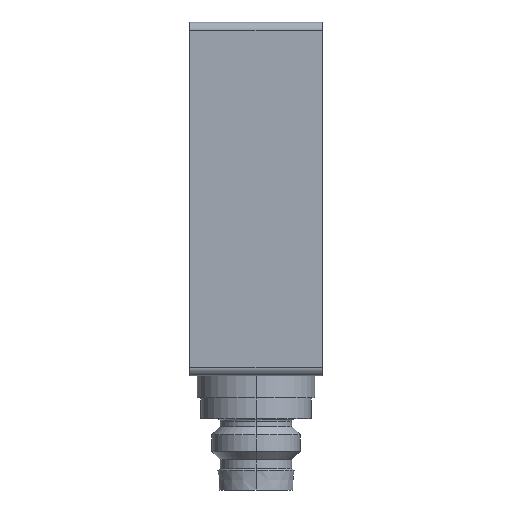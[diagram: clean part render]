
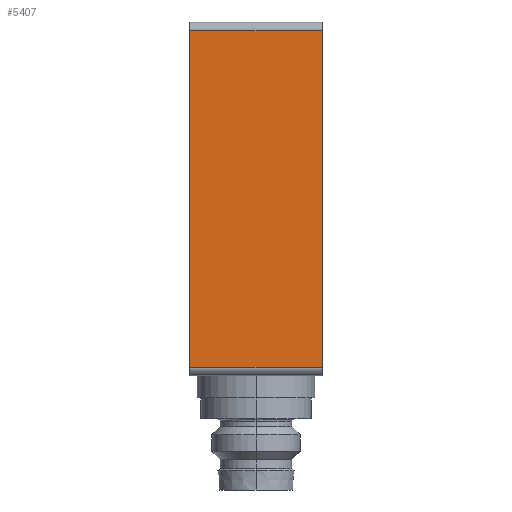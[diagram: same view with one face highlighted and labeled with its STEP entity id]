
A CAD part, left-side view. The second image highlights one B-rep face of the part: STEP entity #5407.
In plain terms, the highlighted planar face has unit normal (-1, 0, 0).
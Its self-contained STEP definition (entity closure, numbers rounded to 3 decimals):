
#279 = DIRECTION ( 'NONE',  ( 0., 0., 1. ) ) ;
#496 = VERTEX_POINT ( 'NONE', #2730 ) ;
#566 = CARTESIAN_POINT ( 'NONE',  ( -10.7, 6., 31.3 ) ) ;
#622 = ORIENTED_EDGE ( 'NONE', *, *, #4427, .T. ) ;
#1003 = CARTESIAN_POINT ( 'NONE',  ( -10.7, -6., 0.8 ) ) ;
#1012 = VECTOR ( 'NONE', #1814, 1000. ) ;
#1176 = EDGE_LOOP ( 'NONE', ( #622, #4443, #3164, #5492 ) ) ;
#1216 = AXIS2_PLACEMENT_3D ( 'NONE', #2435, #5579, #279 ) ;
#1780 = CARTESIAN_POINT ( 'NONE',  ( -10.7, 6., 31.3 ) ) ;
#1814 = DIRECTION ( 'NONE',  ( 0., 0., -1. ) ) ;
#1860 = CARTESIAN_POINT ( 'NONE',  ( -10.7, 6., 0.8 ) ) ;
#2435 = CARTESIAN_POINT ( 'NONE',  ( -10.7, 0., 31.3 ) ) ;
#2485 = LINE ( 'NONE', #3300, #2980 ) ;
#2495 = PLANE ( 'NONE',  #1216 ) ;
#2730 = CARTESIAN_POINT ( 'NONE',  ( -10.7, -6., 31.3 ) ) ;
#2778 = DIRECTION ( 'NONE',  ( 0., 1., 0. ) ) ;
#2980 = VECTOR ( 'NONE', #5090, 1000. ) ;
#3044 = VERTEX_POINT ( 'NONE', #3126 ) ;
#3126 = CARTESIAN_POINT ( 'NONE',  ( -10.7, -6., 0.8 ) ) ;
#3164 = ORIENTED_EDGE ( 'NONE', *, *, #5658, .T. ) ;
#3300 = CARTESIAN_POINT ( 'NONE',  ( -10.7, -6., 0.8 ) ) ;
#3570 = EDGE_CURVE ( 'NONE', #3044, #5617, #4995, .T. ) ;
#3700 = LINE ( 'NONE', #4988, #4177 ) ;
#3713 = VERTEX_POINT ( 'NONE', #566 ) ;
#4177 = VECTOR ( 'NONE', #2778, 1000. ) ;
#4247 = EDGE_CURVE ( 'NONE', #496, #3713, #3700, .T. ) ;
#4427 = EDGE_CURVE ( 'NONE', #3713, #5617, #4823, .T. ) ;
#4443 = ORIENTED_EDGE ( 'NONE', *, *, #3570, .F. ) ;
#4467 = DIRECTION ( 'NONE',  ( 0., 1., 0. ) ) ;
#4823 = LINE ( 'NONE', #1780, #1012 ) ;
#4988 = CARTESIAN_POINT ( 'NONE',  ( -10.7, -6., 31.3 ) ) ;
#4995 = LINE ( 'NONE', #1003, #5137 ) ;
#5048 = FACE_OUTER_BOUND ( 'NONE', #1176, .T. ) ;
#5090 = DIRECTION ( 'NONE',  ( 0., 0., 1. ) ) ;
#5137 = VECTOR ( 'NONE', #4467, 1000. ) ;
#5407 = ADVANCED_FACE ( 'NONE', ( #5048 ), #2495, .T. ) ;
#5492 = ORIENTED_EDGE ( 'NONE', *, *, #4247, .T. ) ;
#5579 = DIRECTION ( 'NONE',  ( -1., 0., 0. ) ) ;
#5617 = VERTEX_POINT ( 'NONE', #1860 ) ;
#5658 = EDGE_CURVE ( 'NONE', #3044, #496, #2485, .T. ) ;
